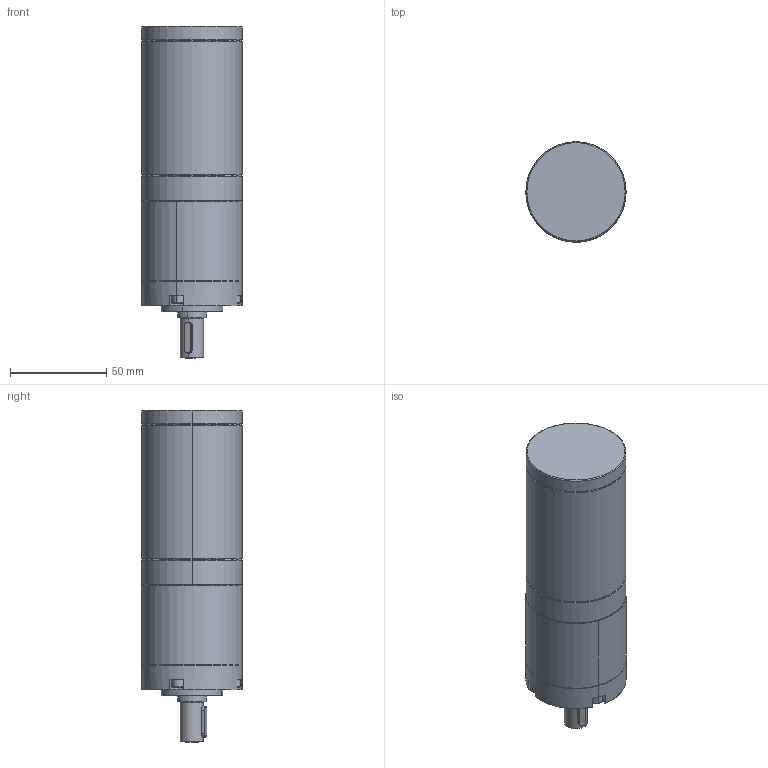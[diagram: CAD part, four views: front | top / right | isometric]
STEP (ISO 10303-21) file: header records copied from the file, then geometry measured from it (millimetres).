
FILE_DESCRIPTION (( 'STEP AP203' ), '1' );
FILE_NAME ('52BLD熬厒掀媼撰淕儂.STEP', '2021-07-16T02:52:53', ( '' ), ( '' ), 'SwSTEP 2.0', 'SolidWorks 2021', '' );
FILE_SCHEMA (( 'CONFIG_CONTROL_DESIGN' ));
Length unit declared in the file: millimetre
Products named in the file (3): 52; 52BLD熬厒掀媼撰淕儂; 52PN媼撰
Assembly tree (2 placements, depth 2):
  52BLD熬厒掀媼撰淕儂
    52
    52PN媼撰
Bounding box: 52 x 52 x 172.2 mm (x, y, z)
Volume: 308588 mm3; surface area: 35134.6 mm2
Topology: 2 solids, 2 shells, 162 faces, 378 edges, 225 vertices
Faces by surface type: plane 59, cone 46, cylinder 45, bspline 10, torus 2
Entity records: 5151 total; most frequent: CARTESIAN_POINT 1190, DIRECTION 806, ORIENTED_EDGE 736, EDGE_CURVE 368, AXIS2_PLACEMENT_3D 305, VERTEX_POINT 225, LINE 196, VECTOR 196
